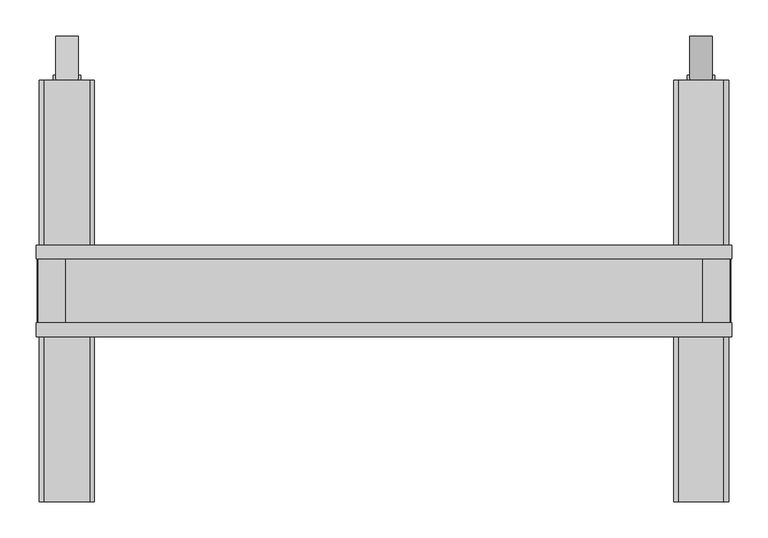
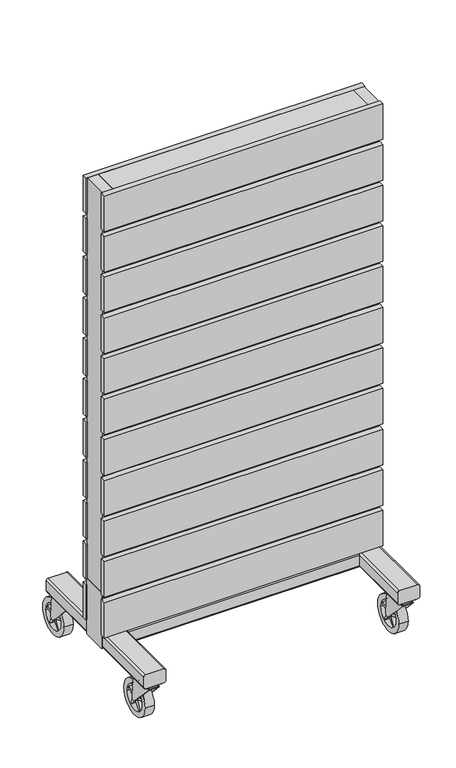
"""IFC4 building model written with IfcOpenShell, lengths in millimetres: furniture geometry, GMi_Companies-Pallet : PLTM-7238-KP-MC."""

import ifcopenshell
import ifcopenshell.guid

model = None  # the IFC model being written
_history = None  # IfcOwnerHistory: only IFC2X3 demands one
_inside = {}  # id of a spatial element -> (the spatial element, [elements in it])
_under = {}  # id of a project, library or spatial element -> (it, [spatial elements below it])
_declared = {}  # id of a project -> (the project, [libraries it declares])
_typed = {}  # id of a type object -> (the type object, [elements of that type])
_made_of = {}  # id of a material, layer set ... -> (it, [elements and type objects made of it])


def new_model(schema):
    """Start an empty IFC model of exactly this schema.

    Asked for "IFC4X3", IfcOpenShell would pick the latest addendum, in which some entities
    have other attributes; the version numbers below select the first issue.
    IFC2X3 requires an IfcOwnerHistory on every rooted entity: one is made here for all.
    """
    global model, _history
    if schema == "IFC4X3":
        model = ifcopenshell.file(schema_version=(4, 3, 0, 0))
    else:
        model = ifcopenshell.file(schema=schema)
    _inside.clear()
    _under.clear()
    _declared.clear()
    _typed.clear()
    _made_of.clear()
    _history = None
    if model.schema == "IFC2X3":
        org = make("IfcOrganization", Name="unknown")
        user = make(
            "IfcPersonAndOrganization",
            ThePerson=make("IfcPerson", FamilyName="unknown"),
            TheOrganization=org,
        )
        app = make(
            "IfcApplication",
            ApplicationDeveloper=org,
            Version="unknown",
            ApplicationFullName="unknown",
            ApplicationIdentifier="unknown",
        )
        _history = make(
            "IfcOwnerHistory",
            OwningUser=user,
            OwningApplication=app,
            ChangeAction="ADDED",
            CreationDate=0,
        )
    return model


def make(cls, **values):
    """One entity of the class cls with the attributes given. An attribute that is None is left unset."""
    return model.create_entity(
        cls, **{name: value for name, value in values.items() if value is not None}
    )


def rooted(cls, **values):
    """An entity with a GlobalId (a new one), such as an element, a storey or a relation."""
    return make(cls, GlobalId=ifcopenshell.guid.new(), OwnerHistory=_history, **values)


def si_unit(unit_type, name, prefix=None):
    """IfcSIUnit, for example si_unit("LENGTHUNIT", "METRE", prefix="MILLI")."""
    return make("IfcSIUnit", UnitType=unit_type, Prefix=prefix, Name=name)


def assignment(units):
    """IfcUnitAssignment: the units of a project."""
    return None if units is None else make("IfcUnitAssignment", Units=units)


def point(xyz):
    """IfcCartesianPoint."""
    return None if xyz is None else make("IfcCartesianPoint", Coordinates=xyz)


def direction(xyz):
    """IfcDirection."""
    return None if xyz is None else make("IfcDirection", DirectionRatios=xyz)


def frame(location, z_axis=None, x_axis=None):
    """IfcAxis2Placement3D, a coordinate frame: its origin and axes. An axis left out is left unset."""
    return make(
        "IfcAxis2Placement3D",
        Location=point(location),
        Axis=direction(z_axis),
        RefDirection=direction(x_axis),
    )


def frame_2d(location, x_axis=None):
    """IfcAxis2Placement2D, a coordinate frame in the plane: its origin and x axis."""
    return make(
        "IfcAxis2Placement2D", Location=point(location), RefDirection=direction(x_axis)
    )


def origin():
    """The frame at (0, 0, 0) with its axes left unset."""
    return frame((0.0, 0.0, 0.0))


def place(relative_to, where):
    """IfcLocalPlacement: puts the frame where relative to a parent placement (None: the world)."""
    return make(
        "IfcLocalPlacement", PlacementRelTo=relative_to, RelativePlacement=where
    )


def context(
    kind, dimensions, precision=None, world=None, true_north=None, identifier=None
):
    """IfcGeometricRepresentationContext, for example the 3D "Model" context."""
    return make(
        "IfcGeometricRepresentationContext",
        ContextIdentifier=identifier,
        ContextType=kind,
        CoordinateSpaceDimension=dimensions,
        Precision=precision,
        WorldCoordinateSystem=world,
        TrueNorth=true_north,
    )


def project(units=None, contexts=None):
    """IfcProject with its units and contexts."""
    return rooted(
        "IfcProject",
        Name="project",
        RepresentationContexts=contexts,
        UnitsInContext=assignment(units),
    )


def spatial(cls, under=None, at=None, **own):
    """A site, building, storey or space (cls), placed at a placement, below another one or the project."""
    s = rooted(cls, ObjectPlacement=at, **own)
    if under is not None:
        _under.setdefault(under.id(), (under, []))[1].append(s)
    return s


def polyline(points):
    """IfcPolyline through the points."""
    return make("IfcPolyline", Points=[point(p) for p in points])


def circle_curve(where, radius):
    """IfcCircle in the frame where."""
    return make("IfcCircle", Position=where, Radius=radius)


def trimmed(basis, trim1, trim2, sense, master):
    """IfcTrimmedCurve: the piece of a basis curve between two trims."""
    return make(
        "IfcTrimmedCurve",
        BasisCurve=basis,
        Trim1=trim1,
        Trim2=trim2,
        SenseAgreement=sense,
        MasterRepresentation=master,
    )


def segment(curve, same_sense, transition):
    """IfcCompositeCurveSegment."""
    return make(
        "IfcCompositeCurveSegment",
        Transition=transition,
        SameSense=same_sense,
        ParentCurve=curve,
    )


def composite_curve(segments, self_intersect=None):
    """IfcCompositeCurve: segments joined end to end."""
    return make("IfcCompositeCurve", Segments=segments, SelfIntersect=self_intersect)


def outline(outer, holes=None, kind="AREA"):
    """IfcArbitraryClosedProfileDef: a profile drawn as a closed curve; with holes, ...WithVoids."""
    if holes is None:
        return make("IfcArbitraryClosedProfileDef", ProfileType=kind, OuterCurve=outer)
    return make(
        "IfcArbitraryProfileDefWithVoids",
        ProfileType=kind,
        OuterCurve=outer,
        InnerCurves=holes,
    )


def extrude(swept, where, along, depth):
    """IfcExtrudedAreaSolid: the profile swept, set in the frame where, extruded along a direction by depth."""
    return make(
        "IfcExtrudedAreaSolid",
        SweptArea=swept,
        Position=where,
        ExtrudedDirection=direction(along),
        Depth=depth,
    )


def shape(context_of_items, identifier, shape_type, items):
    """IfcShapeRepresentation: the items that make up one representation, for example the "Body"."""
    return make(
        "IfcShapeRepresentation",
        ContextOfItems=context_of_items,
        RepresentationIdentifier=identifier,
        RepresentationType=shape_type,
        Items=items,
    )


def source(mapping_origin, context_of_items, identifier, shape_type, items):
    """IfcRepresentationMap: a shape defined once, which mapped items show again and again."""
    return make(
        "IfcRepresentationMap",
        MappingOrigin=mapping_origin,
        MappedRepresentation=shape(context_of_items, identifier, shape_type, items),
    )


def transform(
    local_origin,
    x_axis=None,
    y_axis=None,
    z_axis=None,
    scale=None,
    scale2=None,
    scale3=None,
    uniform=True,
):
    """IfcCartesianTransformationOperator3D, or its non-uniform kind. x_axis, y_axis, z_axis: its Axis1, 2, 3."""
    if uniform:
        return make(
            "IfcCartesianTransformationOperator3D",
            Axis1=direction(x_axis),
            Axis2=direction(y_axis),
            LocalOrigin=point(local_origin),
            Scale=scale,
            Axis3=direction(z_axis),
        )
    return make(
        "IfcCartesianTransformationOperator3DnonUniform",
        Axis1=direction(x_axis),
        Axis2=direction(y_axis),
        LocalOrigin=point(local_origin),
        Scale=scale,
        Axis3=direction(z_axis),
        Scale2=scale2,
        Scale3=scale3,
    )


def mapped(mapping_source, mapping_target):
    """IfcMappedItem: shows the shape of a source again, moved by a transform."""
    return make(
        "IfcMappedItem", MappingSource=mapping_source, MappingTarget=mapping_target
    )


def made_of(thing, what):
    """Note that an element or type object is made of a material, layer set ...; save() writes the relation."""
    if what is not None:
        _made_of.setdefault(what.id(), (what, []))[1].append(thing)
    return thing


def element(
    cls,
    number,
    at=None,
    inside=None,
    cuts=None,
    type_object=None,
    material=None,
    context=None,
    identifier="Body",
    shape_type=None,
    held_by="IfcProductDefinitionShape",
    body=None,
    shapes=None,
    **own,
):
    """One element of the class cls, such as IfcWall. Its Tag is "e" and its number.

    at: its placement. inside: the storey or other place that contains it. cuts: it is an
    opening in that element (IfcRelVoidsElement). A single representation is given by context,
    identifier, shape_type and body (its items); several are given by shapes. held_by: the class
    of the entity that holds the representations. save() writes the other relations.
    """
    e = rooted(cls, Tag="e%d" % number, ObjectPlacement=at, **own)
    if body is not None:
        shapes = [shape(context, identifier, shape_type, body)]
    if shapes is not None:
        e.Representation = make(held_by, Representations=shapes)
    if inside is not None:
        _inside.setdefault(inside.id(), (inside, []))[1].append(e)
    if cuts is not None:
        rooted(
            "IfcRelVoidsElement", RelatingBuildingElement=cuts, RelatedOpeningElement=e
        )
    if type_object is not None:
        _typed.setdefault(type_object.id(), (type_object, []))[1].append(e)
    return made_of(e, material)


def aggregate(whole, parts):
    """IfcRelAggregates: a whole, such as a stair, and the parts it consists of."""
    return rooted("IfcRelAggregates", RelatingObject=whole, RelatedObjects=parts)


def save(model, path):
    """Write the relations noted so far, then the file.

    IfcRelAggregates (storeys below a building ...), IfcRelContainedInSpatialStructure (elements
    in a storey), IfcRelDefinesByType, IfcRelAssociatesMaterial and IfcRelDeclares: one each for
    every whole, place, type object, material and project.
    """
    for whole, parts in _under.values():
        aggregate(whole, parts)
    for where, things in _inside.values():
        rooted(
            "IfcRelContainedInSpatialStructure",
            RelatedElements=things,
            RelatingStructure=where,
        )
    for kind, things in _typed.values():
        rooted("IfcRelDefinesByType", RelatedObjects=things, RelatingType=kind)
    for what, things in _made_of.values():
        rooted("IfcRelAssociatesMaterial", RelatedObjects=things, RelatingMaterial=what)
    for by, libraries in _declared.values():
        rooted("IfcRelDeclares", RelatingContext=by, RelatedDefinitions=libraries)
    model.write(path)


def furniture_4ffba0c0(model_context):
    return source(origin(), model_context, "Body", "SweptSolid", [
        extrude(outline(polyline([(965.2, -107.9499985), (965.2, -126.9999985), (0.0, -126.9999985), (0.0, -107.9499985), (965.2, -107.9499985)])), frame((0.0, 0.0, 358.4575), z_axis=(0.0, 0.0, 1.0), x_axis=(1.0, 0.0, 0.0)), (0.0, 0.0, 1.0), 130.175),
        extrude(outline(polyline([(965.2, -107.9499985), (965.2, -126.9999985), (0.0, -126.9999985), (0.0, -107.9499985), (965.2, -107.9499985)])), frame((0.0, 0.0, 507.365), z_axis=(0.0, 0.0, 1.0), x_axis=(1.0, 0.0, 0.0)), (0.0, 0.0, 1.0), 130.175),
        extrude(outline(polyline([(965.2, -107.9499985), (965.2, -126.9999985), (0.0, -126.9999985), (0.0, -107.9499985), (965.2, -107.9499985)])), frame((0.0, 0.0, 656.2725), z_axis=(0.0, 0.0, 1.0), x_axis=(1.0, 0.0, 0.0)), (0.0, 0.0, 1.0), 130.175),
        extrude(outline(polyline([(965.2, -107.9499985), (965.2, -126.9999985), (0.0, -126.9999985), (0.0, -107.9499985), (965.2, -107.9499985)])), frame((0.0, 0.0, 805.18), z_axis=(0.0, 0.0, 1.0), x_axis=(1.0, 0.0, 0.0)), (0.0, 0.0, 1.0), 130.175),
        extrude(outline(polyline([(965.2, -107.9499985), (965.2, -126.9999985), (0.0, -126.9999985), (0.0, -107.9499985), (965.2, -107.9499985)])), frame((0.0, 0.0, 954.0875), z_axis=(0.0, 0.0, 1.0), x_axis=(1.0, 0.0, 0.0)), (0.0, 0.0, 1.0), 130.175),
        extrude(outline(polyline([(965.2, -107.9499985), (965.2, -126.9999985), (0.0, -126.9999985), (0.0, -107.9499985), (965.2, -107.9499985)])), frame((0.0, 0.0, 1102.995), z_axis=(0.0, 0.0, 1.0), x_axis=(1.0, 0.0, 0.0)), (0.0, 0.0, 1.0), 130.175),
        extrude(outline(polyline([(965.2, -107.9499985), (965.2, -126.9999985), (0.0, -126.9999985), (0.0, -107.9499985), (965.2, -107.9499985)])), frame((0.0, 0.0, 1251.9025), z_axis=(0.0, 0.0, 1.0), x_axis=(1.0, 0.0, 0.0)), (0.0, 0.0, 1.0), 130.175),
        extrude(outline(polyline([(965.2, -107.9499985), (965.2, -126.9999985), (0.0, -126.9999985), (0.0, -107.9499985), (965.2, -107.9499985)])), frame((0.0, 0.0, 1400.81), z_axis=(0.0, 0.0, 1.0), x_axis=(1.0, 0.0, 0.0)), (0.0, 0.0, 1.0), 130.175),
        extrude(outline(polyline([(965.2, -107.9499985), (965.2, -126.9999985), (0.0, -126.9999985), (0.0, -107.9499985), (965.2, -107.9499985)])), frame((0.0, 0.0, 1549.7175), z_axis=(0.0, 0.0, 1.0), x_axis=(1.0, 0.0, 0.0)), (0.0, 0.0, 1.0), 130.175),
        extrude(outline(polyline([(965.2, 0.0), (965.2, -19.05), (0.0, -19.05), (0.0, 0.0), (965.2, 0.0)])), frame((0.0, 0.0, 358.4575), z_axis=(0.0, 0.0, 1.0), x_axis=(1.0, 0.0, 0.0)), (0.0, 0.0, 1.0), 130.175),
        extrude(outline(polyline([(965.2, 0.0), (965.2, -19.05), (0.0, -19.05), (0.0, 0.0), (965.2, 0.0)])), frame((0.0, 0.0, 507.365), z_axis=(0.0, 0.0, 1.0), x_axis=(1.0, 0.0, 0.0)), (0.0, 0.0, 1.0), 130.175),
        extrude(outline(polyline([(965.2, 0.0), (965.2, -19.05), (0.0, -19.05), (0.0, 0.0), (965.2, 0.0)])), frame((0.0, 0.0, 656.2725), z_axis=(0.0, 0.0, 1.0), x_axis=(1.0, 0.0, 0.0)), (0.0, 0.0, 1.0), 130.175),
        extrude(outline(polyline([(965.2, 0.0), (965.2, -19.05), (0.0, -19.05), (0.0, 0.0), (965.2, 0.0)])), frame((0.0, 0.0, 805.18), z_axis=(0.0, 0.0, 1.0), x_axis=(1.0, 0.0, 0.0)), (0.0, 0.0, 1.0), 130.175),
        extrude(outline(polyline([(965.2, 0.0), (965.2, -19.05), (0.0, -19.05), (0.0, 0.0), (965.2, 0.0)])), frame((0.0, 0.0, 954.0875), z_axis=(0.0, 0.0, 1.0), x_axis=(1.0, 0.0, 0.0)), (0.0, 0.0, 1.0), 130.175),
        extrude(outline(polyline([(965.2, 0.0), (965.2, -19.05), (0.0, -19.05), (0.0, 0.0), (965.2, 0.0)])), frame((0.0, 0.0, 1102.995), z_axis=(0.0, 0.0, 1.0), x_axis=(1.0, 0.0, 0.0)), (0.0, 0.0, 1.0), 130.175),
        extrude(outline(polyline([(965.2, 0.0), (965.2, -19.05), (0.0, -19.05), (0.0, 0.0), (965.2, 0.0)])), frame((0.0, 0.0, 1251.9025), z_axis=(0.0, 0.0, 1.0), x_axis=(1.0, 0.0, 0.0)), (0.0, 0.0, 1.0), 130.175),
        extrude(outline(polyline([(965.2, 0.0), (965.2, -19.05), (0.0, -19.05), (0.0, 0.0), (965.2, 0.0)])), frame((0.0, 0.0, 1400.81), z_axis=(0.0, 0.0, 1.0), x_axis=(1.0, 0.0, 0.0)), (0.0, 0.0, 1.0), 130.175),
        extrude(outline(polyline([(965.2, 0.0), (965.2, -19.05), (0.0, -19.05), (0.0, 0.0), (965.2, 0.0)])), frame((0.0, 0.0, 1549.7175), z_axis=(0.0, 0.0, 1.0), x_axis=(1.0, 0.0, 0.0)), (0.0, 0.0, 1.0), 130.175),
        extrude(outline(polyline([(965.2, -107.9499985), (965.2, -126.9999985), (0.0, -126.9999985), (0.0, -107.9499985), (965.2, -107.9499985)])), frame((0.0, 0.0, 209.55), z_axis=(0.0, 0.0, 1.0), x_axis=(1.0, 0.0, 0.0)), (0.0, 0.0, 1.0), 130.175),
        extrude(outline(polyline([(965.2, 0.0), (965.2, -19.05), (0.0, -19.05), (0.0, 0.0), (965.2, 0.0)])), frame((0.0, 0.0, 209.55), z_axis=(0.0, 0.0, 1.0), x_axis=(1.0, 0.0, 0.0)), (0.0, 0.0, 1.0), 130.175),
        extrude(outline(polyline([(965.2, -107.9499985), (965.2, -126.9999985), (0.0, -126.9999985), (0.0, -107.9499985), (965.2, -107.9499985)])), frame((0.0, 0.0, 1698.625), z_axis=(0.0, 0.0, 1.0), x_axis=(1.0, 0.0, 0.0)), (0.0, 0.0, 1.0), 130.175),
        extrude(outline(polyline([(965.2, 0.0), (965.2, -19.05), (0.0, -19.05), (0.0, 0.0), (965.2, 0.0)])), frame((0.0, 0.0, 1698.625), z_axis=(0.0, 0.0, 1.0), x_axis=(1.0, 0.0, 0.0)), (0.0, 0.0, 1.0), 130.175),
        extrude(outline(polyline([(232.5856246, 72.0796846), (267.7931048, 79.5762798), (269.5582953, 73.9416668), (236.438143, 60.2228469), (254.4475363, 29.0551189), (249.6341746, 25.635132), (226.3521161, 52.8949176), (203.0700575, 25.635132), (198.2566958, 29.0551189), (216.2660891, 60.2228469), (183.1459368, 73.9416668), (184.9111274, 79.5762798), (220.1186076, 72.0796846), (222.931299, 107.8181706), (229.7729331, 107.8181706), (232.5856246, 72.0796846)]), holes=[composite_curve([segment(trimmed(circle_curve(frame_2d((226.3521161, 63.4999985)), 9.525), [point((216.8271161, 63.4999985))], [point((235.8771161, 63.4999985))], True, "CARTESIAN"), True, "CONTINUOUS"), segment(trimmed(circle_curve(frame_2d((226.3521161, 63.4999985)), 9.525), [point((235.8771161, 63.4999985))], [point((216.8271161, 63.4999985))], True, "CARTESIAN"), True, "CONTINUOUS")], self_intersect=False)]), frame((909.79313, 0.0, 0.0), z_axis=(1.0, 0.0, 0.0), x_axis=(0.0, 1.0, 0.0)), (0.0, 0.0, 1.0), 25.2409062),
        extrude(outline(polyline([(-255.0436363, 72.0796846), (-219.8361561, 79.5762798), (-218.0709656, 73.9416668), (-251.1911179, 60.2228469), (-233.1817246, 29.0551189), (-237.9950863, 25.635132), (-261.2771448, 52.8949176), (-284.5592034, 25.635132), (-289.3725651, 29.0551189), (-271.3631718, 60.2228469), (-304.4833241, 73.9416668), (-302.7181335, 79.5762798), (-267.5106533, 72.0796846), (-264.6979619, 107.8181706), (-257.8563278, 107.8181706), (-255.0436363, 72.0796846)]), holes=[composite_curve([segment(trimmed(circle_curve(frame_2d((-261.2771448, 63.4999985)), 9.525), [point((-270.8021448, 63.4999985))], [point((-251.7521448, 63.4999985))], True, "CARTESIAN"), True, "CONTINUOUS"), segment(trimmed(circle_curve(frame_2d((-261.2771448, 63.4999985)), 9.525), [point((-251.7521448, 63.4999985))], [point((-270.8021448, 63.4999985))], True, "CARTESIAN"), True, "CONTINUOUS")], self_intersect=False)]), frame((909.79313, 0.0, 0.0), z_axis=(1.0, 0.0, 0.0), x_axis=(0.0, 1.0, 0.0)), (0.0, 0.0, 1.0), 25.2409062),
        extrude(outline(composite_curve([segment(trimmed(circle_curve(frame_2d((226.3521161, 63.4999985)), 63.4999985), [point((162.8521176, 63.4999985))], [point((289.8521146, 63.4999985))], False, "CARTESIAN"), True, "CONTINUOUS"), segment(trimmed(circle_curve(frame_2d((226.3521161, 63.4999985)), 63.4999985), [point((289.8521146, 63.4999985))], [point((162.8521176, 63.4999985))], False, "CARTESIAN"), True, "CONTINUOUS")], self_intersect=False), holes=[composite_curve([segment(trimmed(circle_curve(frame_2d((226.3521161, 63.4999985)), 44.4499985), [point((181.9021176, 63.4999985))], [point((270.8021146, 63.4999985))], True, "CARTESIAN"), True, "CONTINUOUS"), segment(trimmed(circle_curve(frame_2d((226.3521161, 63.4999985)), 44.4499985), [point((270.8021146, 63.4999985))], [point((181.9021176, 63.4999985))], True, "CARTESIAN"), True, "CONTINUOUS")], self_intersect=False)]), frame((906.4624743, 0.0, 0.0), z_axis=(1.0, 0.0, 0.0), x_axis=(0.0, 1.0, 0.0)), (0.0, 0.0, 1.0), 31.7500015),
        extrude(outline(composite_curve([segment(trimmed(circle_curve(frame_2d((-261.2771448, 63.4999985)), 63.4999985), [point((-324.7771433, 63.4999985))], [point((-197.7771464, 63.4999985))], False, "CARTESIAN"), True, "CONTINUOUS"), segment(trimmed(circle_curve(frame_2d((-261.2771448, 63.4999985)), 63.4999985), [point((-197.7771464, 63.4999985))], [point((-324.7771433, 63.4999985))], False, "CARTESIAN"), True, "CONTINUOUS")], self_intersect=False), holes=[composite_curve([segment(trimmed(circle_curve(frame_2d((-261.2771448, 63.4999985)), 44.4499985), [point((-305.7271433, 63.4999985))], [point((-216.8271464, 63.4999985))], True, "CARTESIAN"), True, "CONTINUOUS"), segment(trimmed(circle_curve(frame_2d((-261.2771448, 63.4999985)), 44.4499985), [point((-216.8271464, 63.4999985))], [point((-305.7271433, 63.4999985))], True, "CARTESIAN"), True, "CONTINUOUS")], self_intersect=False)]), frame((906.4624743, 0.0, 0.0), z_axis=(1.0, 0.0, 0.0), x_axis=(0.0, 1.0, 0.0)), (0.0, 0.0, 1.0), 31.7500015),
        extrude(outline(composite_curve([segment(trimmed(circle_curve(frame_2d((139.4618177, 144.4825842)), 1.5674128), [point((138.3154845, 143.4136113))], [point((139.4618177, 146.049997))], False, "CARTESIAN"), True, "CONTINUOUS"), segment(polyline([(139.4618177, 146.049997), (227.2025864, 146.049997)]), True, "CONTINUOUS"), segment(trimmed(circle_curve(frame_2d((227.2025864, 144.4757309)), 1.574266), [point((227.2025864, 146.049997))], [point((228.7708619, 144.6129373))], False, "CARTESIAN"), True, "CONTINUOUS"), segment(polyline([(228.7708619, 144.6129373), (228.8757893, 143.4136113), (138.3154845, 143.4136113)]), True, "CONTINUOUS")], self_intersect=False)), frame((906.462522, 0.0, 0.0), z_axis=(1.0, 0.0, 0.0), x_axis=(0.0, 1.0, 0.0)), (0.0, 0.0, 1.0), 31.7499538),
        extrude(outline(composite_curve([segment(trimmed(circle_curve(frame_2d((-348.1673933, 144.4825842)), 1.5674128), [point((-349.3137264, 143.4136113))], [point((-348.1673933, 146.049997))], False, "CARTESIAN"), True, "CONTINUOUS"), segment(polyline([(-348.1673933, 146.049997), (-260.4266246, 146.049997)]), True, "CONTINUOUS"), segment(trimmed(circle_curve(frame_2d((-260.4266246, 144.4757309)), 1.574266), [point((-260.4266246, 146.049997))], [point((-258.8583491, 144.6129373))], False, "CARTESIAN"), True, "CONTINUOUS"), segment(polyline([(-258.8583491, 144.6129373), (-258.7534216, 143.4136113), (-349.3137264, 143.4136113)]), True, "CONTINUOUS")], self_intersect=False)), frame((906.462522, 0.0, 0.0), z_axis=(1.0, 0.0, 0.0), x_axis=(0.0, 1.0, 0.0)), (0.0, 0.0, 1.0), 31.7499538),
        extrude(outline(composite_curve([segment(polyline([(139.4618177, 146.049997), (227.1904597, 146.049997)]), True, "CONTINUOUS"), segment(trimmed(circle_curve(frame_2d((227.1904597, 144.462497)), 1.5875), [point((227.1904597, 146.049997))], [point((228.7719188, 144.6008567))], False, "CARTESIAN"), True, "CONTINUOUS"), segment(polyline([(228.7719188, 144.6008567), (235.8364993, 63.8523315)]), True, "CONTINUOUS"), segment(trimmed(circle_curve(frame_2d((226.3305342, 63.0206673)), 9.5422764), [point((235.8364993, 63.8523315))], [point((219.351755, 56.5128504))], False, "CARTESIAN"), True, "CONTINUOUS"), segment(polyline([(219.351755, 56.5128504), (138.3154845, 143.4136113)]), True, "CONTINUOUS"), segment(trimmed(circle_curve(frame_2d((139.4618177, 144.4825842)), 1.5674128), [point((138.3154845, 143.4136113))], [point((139.4618177, 146.049997))], False, "CARTESIAN"), True, "CONTINUOUS")], self_intersect=False)), frame((903.2875228, 0.0, 0.0), z_axis=(1.0, 0.0, 0.0), x_axis=(0.0, 1.0, 0.0)), (0.0, 0.0, 1.0), 3.1749992),
        extrude(outline(composite_curve([segment(polyline([(-348.1673933, 146.049997), (-260.4387512, 146.049997)]), True, "CONTINUOUS"), segment(trimmed(circle_curve(frame_2d((-260.4387512, 144.462497)), 1.5875), [point((-260.4387512, 146.049997))], [point((-258.8572922, 144.6008567))], False, "CARTESIAN"), True, "CONTINUOUS"), segment(polyline([(-258.8572922, 144.6008567), (-251.7927116, 63.8523315)]), True, "CONTINUOUS"), segment(trimmed(circle_curve(frame_2d((-261.2986768, 63.0206673)), 9.5422764), [point((-251.7927116, 63.8523315))], [point((-268.2774559, 56.5128504))], False, "CARTESIAN"), True, "CONTINUOUS"), segment(polyline([(-268.2774559, 56.5128504), (-349.3137264, 143.4136113)]), True, "CONTINUOUS"), segment(trimmed(circle_curve(frame_2d((-348.1673933, 144.4825842)), 1.5674128), [point((-349.3137264, 143.4136113))], [point((-348.1673933, 146.049997))], False, "CARTESIAN"), True, "CONTINUOUS")], self_intersect=False)), frame((903.2875228, 0.0, 0.0), z_axis=(1.0, 0.0, 0.0), x_axis=(0.0, 1.0, 0.0)), (0.0, 0.0, 1.0), 3.1749992),
        extrude(outline(composite_curve([segment(polyline([(139.4618177, 146.049997), (227.1904597, 146.049997)]), True, "CONTINUOUS"), segment(trimmed(circle_curve(frame_2d((227.1904597, 144.462497)), 1.5875), [point((227.1904597, 146.049997))], [point((228.7719188, 144.6008567))], False, "CARTESIAN"), True, "CONTINUOUS"), segment(polyline([(228.7719188, 144.6008567), (235.8364993, 63.8523315)]), True, "CONTINUOUS"), segment(trimmed(circle_curve(frame_2d((226.3305342, 63.0206673)), 9.5422764), [point((235.8364993, 63.8523315))], [point((219.351755, 56.5128504))], False, "CARTESIAN"), True, "CONTINUOUS"), segment(polyline([(219.351755, 56.5128504), (138.3154845, 143.4136113)]), True, "CONTINUOUS"), segment(trimmed(circle_curve(frame_2d((139.4618177, 144.4825842)), 1.5674128), [point((138.3154845, 143.4136113))], [point((139.4618177, 146.049997))], False, "CARTESIAN"), True, "CONTINUOUS")], self_intersect=False)), frame((938.2124758, 0.0, 0.0), z_axis=(1.0, 0.0, 0.0), x_axis=(0.0, 1.0, 0.0)), (0.0, 0.0, 1.0), 3.1749992),
        extrude(outline(composite_curve([segment(polyline([(-348.1673933, 146.049997), (-260.4387512, 146.049997)]), True, "CONTINUOUS"), segment(trimmed(circle_curve(frame_2d((-260.4387512, 144.462497)), 1.5875), [point((-260.4387512, 146.049997))], [point((-258.8572922, 144.6008567))], False, "CARTESIAN"), True, "CONTINUOUS"), segment(polyline([(-258.8572922, 144.6008567), (-251.7927116, 63.8523315)]), True, "CONTINUOUS"), segment(trimmed(circle_curve(frame_2d((-261.2986768, 63.0206673)), 9.5422764), [point((-251.7927116, 63.8523315))], [point((-268.2774559, 56.5128504))], False, "CARTESIAN"), True, "CONTINUOUS"), segment(polyline([(-268.2774559, 56.5128504), (-349.3137264, 143.4136113)]), True, "CONTINUOUS"), segment(trimmed(circle_curve(frame_2d((-348.1673933, 144.4825842)), 1.5674128), [point((-349.3137264, 143.4136113))], [point((-348.1673933, 146.049997))], False, "CARTESIAN"), True, "CONTINUOUS")], self_intersect=False)), frame((938.2124758, 0.0, 0.0), z_axis=(1.0, 0.0, 0.0), x_axis=(0.0, 1.0, 0.0)), (0.0, 0.0, 1.0), 3.1749992),
        extrude(outline(polyline([(232.5856246, 72.0796846), (267.7931048, 79.5762798), (269.5582953, 73.9416668), (236.438143, 60.2228469), (254.4475363, 29.0551189), (249.6341746, 25.635132), (226.3521161, 52.8949176), (203.0700575, 25.635132), (198.2566958, 29.0551189), (216.2660891, 60.2228469), (183.1459368, 73.9416668), (184.9111274, 79.5762798), (220.1186076, 72.0796846), (222.931299, 107.8181706), (229.7729331, 107.8181706), (232.5856246, 72.0796846)]), holes=[composite_curve([segment(trimmed(circle_curve(frame_2d((226.3521161, 63.4999985)), 9.525), [point((216.8271161, 63.4999985))], [point((235.8771161, 63.4999985))], True, "CARTESIAN"), True, "CONTINUOUS"), segment(trimmed(circle_curve(frame_2d((226.3521161, 63.4999985)), 9.525), [point((235.8771161, 63.4999985))], [point((216.8271161, 63.4999985))], True, "CARTESIAN"), True, "CONTINUOUS")], self_intersect=False)]), frame((30.1659639, 0.0, 0.0), z_axis=(1.0, 0.0, 0.0), x_axis=(0.0, 1.0, 0.0)), (0.0, 0.0, 1.0), 25.2409062),
        extrude(outline(polyline([(-255.0436363, 72.0796846), (-219.8361561, 79.5762798), (-218.0709656, 73.9416668), (-251.1911179, 60.2228469), (-233.1817246, 29.0551189), (-237.9950863, 25.635132), (-261.2771448, 52.8949176), (-284.5592034, 25.635132), (-289.3725651, 29.0551189), (-271.3631718, 60.2228469), (-304.4833241, 73.9416668), (-302.7181335, 79.5762798), (-267.5106533, 72.0796846), (-264.6979619, 107.8181706), (-257.8563278, 107.8181706), (-255.0436363, 72.0796846)]), holes=[composite_curve([segment(trimmed(circle_curve(frame_2d((-261.2771448, 63.4999985)), 9.525), [point((-270.8021448, 63.4999985))], [point((-251.7521448, 63.4999985))], True, "CARTESIAN"), True, "CONTINUOUS"), segment(trimmed(circle_curve(frame_2d((-261.2771448, 63.4999985)), 9.525), [point((-251.7521448, 63.4999985))], [point((-270.8021448, 63.4999985))], True, "CARTESIAN"), True, "CONTINUOUS")], self_intersect=False)]), frame((30.1659639, 0.0, 0.0), z_axis=(1.0, 0.0, 0.0), x_axis=(0.0, 1.0, 0.0)), (0.0, 0.0, 1.0), 25.2409062),
        extrude(outline(composite_curve([segment(trimmed(circle_curve(frame_2d((226.3521161, 63.4999985)), 63.4999985), [point((162.8521176, 63.4999985))], [point((289.8521146, 63.4999985))], False, "CARTESIAN"), True, "CONTINUOUS"), segment(trimmed(circle_curve(frame_2d((226.3521161, 63.4999985)), 63.4999985), [point((289.8521146, 63.4999985))], [point((162.8521176, 63.4999985))], False, "CARTESIAN"), True, "CONTINUOUS")], self_intersect=False), holes=[composite_curve([segment(trimmed(circle_curve(frame_2d((226.3521161, 63.4999985)), 44.4499985), [point((181.9021176, 63.4999985))], [point((270.8021146, 63.4999985))], True, "CARTESIAN"), True, "CONTINUOUS"), segment(trimmed(circle_curve(frame_2d((226.3521161, 63.4999985)), 44.4499985), [point((270.8021146, 63.4999985))], [point((181.9021176, 63.4999985))], True, "CARTESIAN"), True, "CONTINUOUS")], self_intersect=False)]), frame((26.9875242, 0.0, 0.0), z_axis=(1.0, 0.0, 0.0), x_axis=(0.0, 1.0, 0.0)), (0.0, 0.0, 1.0), 31.7500015),
        extrude(outline(composite_curve([segment(trimmed(circle_curve(frame_2d((-261.2771448, 63.4999985)), 63.4999985), [point((-324.7771433, 63.4999985))], [point((-197.7771464, 63.4999985))], False, "CARTESIAN"), True, "CONTINUOUS"), segment(trimmed(circle_curve(frame_2d((-261.2771448, 63.4999985)), 63.4999985), [point((-197.7771464, 63.4999985))], [point((-324.7771433, 63.4999985))], False, "CARTESIAN"), True, "CONTINUOUS")], self_intersect=False), holes=[composite_curve([segment(trimmed(circle_curve(frame_2d((-261.2771448, 63.4999985)), 44.4499985), [point((-305.7271433, 63.4999985))], [point((-216.8271464, 63.4999985))], True, "CARTESIAN"), True, "CONTINUOUS"), segment(trimmed(circle_curve(frame_2d((-261.2771448, 63.4999985)), 44.4499985), [point((-216.8271464, 63.4999985))], [point((-305.7271433, 63.4999985))], True, "CARTESIAN"), True, "CONTINUOUS")], self_intersect=False)]), frame((26.9875242, 0.0, 0.0), z_axis=(1.0, 0.0, 0.0), x_axis=(0.0, 1.0, 0.0)), (0.0, 0.0, 1.0), 31.7500015),
        extrude(outline(polyline([(960.4374745, -107.9499849), (960.4374745, -19.049997), (963.4855052, -19.049997), (963.4855052, -107.9499849), (960.4374745, -107.9499849)])), frame((0.0, 0.0, 158.7499939), z_axis=(0.0, 0.0, 1.0), x_axis=(1.0, 0.0, 0.0)), (0.0, 0.0, 1.0), 203.2000061),
        extrude(outline(polyline([(4.7625255, -19.049997), (4.7625255, -107.9499849), (1.7144948, -107.9499849), (1.7144948, -19.049997), (4.7625255, -19.049997)])), frame((0.0, 0.0, 158.7499939), z_axis=(0.0, 0.0, 1.0), x_axis=(1.0, 0.0, 0.0)), (0.0, 0.0, 1.0), 203.2000061),
        extrude(outline(composite_curve([segment(trimmed(circle_curve(frame_2d((139.4618177, 144.4825842)), 1.5674128), [point((138.3154845, 143.4136113))], [point((139.4618177, 146.049997))], False, "CARTESIAN"), True, "CONTINUOUS"), segment(polyline([(139.4618177, 146.049997), (227.2025864, 146.049997)]), True, "CONTINUOUS"), segment(trimmed(circle_curve(frame_2d((227.2025864, 144.4757309)), 1.574266), [point((227.2025864, 146.049997))], [point((228.7708619, 144.6129373))], False, "CARTESIAN"), True, "CONTINUOUS"), segment(polyline([(228.7708619, 144.6129373), (228.8757893, 143.4136113), (138.3154845, 143.4136113)]), True, "CONTINUOUS")], self_intersect=False)), frame((26.9875242, 0.0, 0.0), z_axis=(1.0, 0.0, 0.0), x_axis=(0.0, 1.0, 0.0)), (0.0, 0.0, 1.0), 31.7499538),
        extrude(outline(composite_curve([segment(trimmed(circle_curve(frame_2d((-348.1673933, 144.4825842)), 1.5674128), [point((-349.3137264, 143.4136113))], [point((-348.1673933, 146.049997))], False, "CARTESIAN"), True, "CONTINUOUS"), segment(polyline([(-348.1673933, 146.049997), (-260.4266246, 146.049997)]), True, "CONTINUOUS"), segment(trimmed(circle_curve(frame_2d((-260.4266246, 144.4757309)), 1.574266), [point((-260.4266246, 146.049997))], [point((-258.8583491, 144.6129373))], False, "CARTESIAN"), True, "CONTINUOUS"), segment(polyline([(-258.8583491, 144.6129373), (-258.7534216, 143.4136113), (-349.3137264, 143.4136113)]), True, "CONTINUOUS")], self_intersect=False)), frame((26.9875242, 0.0, 0.0), z_axis=(1.0, 0.0, 0.0), x_axis=(0.0, 1.0, 0.0)), (0.0, 0.0, 1.0), 31.7499538),
        extrude(outline(composite_curve([segment(polyline([(139.4618177, 146.049997), (227.1904597, 146.049997)]), True, "CONTINUOUS"), segment(trimmed(circle_curve(frame_2d((227.1904597, 144.462497)), 1.5875), [point((227.1904597, 146.049997))], [point((228.7719188, 144.6008567))], False, "CARTESIAN"), True, "CONTINUOUS"), segment(polyline([(228.7719188, 144.6008567), (235.8364993, 63.8523315)]), True, "CONTINUOUS"), segment(trimmed(circle_curve(frame_2d((226.3305342, 63.0206673)), 9.5422764), [point((235.8364993, 63.8523315))], [point((219.351755, 56.5128504))], False, "CARTESIAN"), True, "CONTINUOUS"), segment(polyline([(219.351755, 56.5128504), (138.3154845, 143.4136113)]), True, "CONTINUOUS"), segment(trimmed(circle_curve(frame_2d((139.4618177, 144.4825842)), 1.5674128), [point((138.3154845, 143.4136113))], [point((139.4618177, 146.049997))], False, "CARTESIAN"), True, "CONTINUOUS")], self_intersect=False)), frame((58.737478, 0.0, 0.0), z_axis=(1.0, 0.0, 0.0), x_axis=(0.0, 1.0, 0.0)), (0.0, 0.0, 1.0), 3.1749992),
        extrude(outline(composite_curve([segment(polyline([(-348.1673933, 146.049997), (-260.4387512, 146.049997)]), True, "CONTINUOUS"), segment(trimmed(circle_curve(frame_2d((-260.4387512, 144.462497)), 1.5875), [point((-260.4387512, 146.049997))], [point((-258.8572922, 144.6008567))], False, "CARTESIAN"), True, "CONTINUOUS"), segment(polyline([(-258.8572922, 144.6008567), (-251.7927116, 63.8523315)]), True, "CONTINUOUS"), segment(trimmed(circle_curve(frame_2d((-261.2986768, 63.0206673)), 9.5422764), [point((-251.7927116, 63.8523315))], [point((-268.2774559, 56.5128504))], False, "CARTESIAN"), True, "CONTINUOUS"), segment(polyline([(-268.2774559, 56.5128504), (-349.3137264, 143.4136113)]), True, "CONTINUOUS"), segment(trimmed(circle_curve(frame_2d((-348.1673933, 144.4825842)), 1.5674128), [point((-349.3137264, 143.4136113))], [point((-348.1673933, 146.049997))], False, "CARTESIAN"), True, "CONTINUOUS")], self_intersect=False)), frame((58.737478, 0.0, 0.0), z_axis=(1.0, 0.0, 0.0), x_axis=(0.0, 1.0, 0.0)), (0.0, 0.0, 1.0), 3.1749992),
        extrude(outline(composite_curve([segment(polyline([(139.4618177, 146.049997), (227.1904597, 146.049997)]), True, "CONTINUOUS"), segment(trimmed(circle_curve(frame_2d((227.1904597, 144.462497)), 1.5875), [point((227.1904597, 146.049997))], [point((228.7719188, 144.6008567))], False, "CARTESIAN"), True, "CONTINUOUS"), segment(polyline([(228.7719188, 144.6008567), (235.8364993, 63.8523315)]), True, "CONTINUOUS"), segment(trimmed(circle_curve(frame_2d((226.3305342, 63.0206673)), 9.5422764), [point((235.8364993, 63.8523315))], [point((219.351755, 56.5128504))], False, "CARTESIAN"), True, "CONTINUOUS"), segment(polyline([(219.351755, 56.5128504), (138.3154845, 143.4136113)]), True, "CONTINUOUS"), segment(trimmed(circle_curve(frame_2d((139.4618177, 144.4825842)), 1.5674128), [point((138.3154845, 143.4136113))], [point((139.4618177, 146.049997))], False, "CARTESIAN"), True, "CONTINUOUS")], self_intersect=False)), frame((23.8125249, 0.0, 0.0), z_axis=(1.0, 0.0, 0.0), x_axis=(0.0, 1.0, 0.0)), (0.0, 0.0, 1.0), 3.1749992),
        extrude(outline(composite_curve([segment(polyline([(-348.1673933, 146.049997), (-260.4387512, 146.049997)]), True, "CONTINUOUS"), segment(trimmed(circle_curve(frame_2d((-260.4387512, 144.462497)), 1.5875), [point((-260.4387512, 146.049997))], [point((-258.8572922, 144.6008567))], False, "CARTESIAN"), True, "CONTINUOUS"), segment(polyline([(-258.8572922, 144.6008567), (-251.7927116, 63.8523315)]), True, "CONTINUOUS"), segment(trimmed(circle_curve(frame_2d((-261.2986768, 63.0206673)), 9.5422764), [point((-251.7927116, 63.8523315))], [point((-268.2774559, 56.5128504))], False, "CARTESIAN"), True, "CONTINUOUS"), segment(polyline([(-268.2774559, 56.5128504), (-349.3137264, 143.4136113)]), True, "CONTINUOUS"), segment(trimmed(circle_curve(frame_2d((-348.1673933, 144.4825842)), 1.5674128), [point((-349.3137264, 143.4136113))], [point((-348.1673933, 146.049997))], False, "CARTESIAN"), True, "CONTINUOUS")], self_intersect=False)), frame((23.8125249, 0.0, 0.0), z_axis=(1.0, 0.0, 0.0), x_axis=(0.0, 1.0, 0.0)), (0.0, 0.0, 1.0), 3.1749992),
        extrude(outline(composite_curve([segment(trimmed(circle_curve(frame_2d((42.8625227, 180.3146146)), 19.05), [point((23.8125227, 180.3146146))], [point((61.9125227, 180.3146146))], False, "CARTESIAN"), True, "CONTINUOUS"), segment(trimmed(circle_curve(frame_2d((42.8625227, 180.3146146)), 19.05), [point((61.9125227, 180.3146146))], [point((23.8125227, 180.3146146))], False, "CARTESIAN"), True, "CONTINUOUS")], self_intersect=False)), frame((0.0, 0.0, 146.049997), z_axis=(0.0, 0.0, 1.0), x_axis=(1.0, 0.0, 0.0)), (0.0, 0.0, 1.0), 9.5250091),
        extrude(outline(composite_curve([segment(trimmed(circle_curve(frame_2d((922.413583, 180.3146146)), 19.05), [point((903.363583, 180.3146146))], [point((941.463583, 180.3146146))], False, "CARTESIAN"), True, "CONTINUOUS"), segment(trimmed(circle_curve(frame_2d((922.413583, 180.3146146)), 19.05), [point((941.463583, 180.3146146))], [point((903.363583, 180.3146146))], False, "CARTESIAN"), True, "CONTINUOUS")], self_intersect=False)), frame((0.0, 0.0, 146.049997), z_axis=(0.0, 0.0, 1.0), x_axis=(1.0, 0.0, 0.0)), (0.0, 0.0, 1.0), 9.5250091),
        extrude(outline(composite_curve([segment(trimmed(circle_curve(frame_2d((42.8625227, -307.3146327)), 19.05), [point((23.8125227, -307.3146327))], [point((61.9125227, -307.3146327))], False, "CARTESIAN"), True, "CONTINUOUS"), segment(trimmed(circle_curve(frame_2d((42.8625227, -307.3146327)), 19.05), [point((61.9125227, -307.3146327))], [point((23.8125227, -307.3146327))], False, "CARTESIAN"), True, "CONTINUOUS")], self_intersect=False)), frame((0.0, 0.0, 146.049997), z_axis=(0.0, 0.0, 1.0), x_axis=(1.0, 0.0, 0.0)), (0.0, 0.0, 1.0), 9.5250091),
        extrude(outline(composite_curve([segment(trimmed(circle_curve(frame_2d((922.413583, -307.3146327)), 19.05), [point((903.363583, -307.3146327))], [point((941.463583, -307.3146327))], False, "CARTESIAN"), True, "CONTINUOUS"), segment(trimmed(circle_curve(frame_2d((922.413583, -307.3146327)), 19.05), [point((941.463583, -307.3146327))], [point((903.363583, -307.3146327))], False, "CARTESIAN"), True, "CONTINUOUS")], self_intersect=False)), frame((0.0, 0.0, 146.049997), z_axis=(0.0, 0.0, 1.0), x_axis=(1.0, 0.0, 0.0)), (0.0, 0.0, 1.0), 9.5250091),
        extrude(outline(composite_curve([segment(trimmed(circle_curve(frame_2d((66.6749769, 220.0021161)), 6.35), [point((66.6749769, 226.3521161))], [point((73.0249769, 220.0021161))], False, "CARTESIAN"), True, "CONTINUOUS"), segment(polyline([(73.0249769, 220.0021161), (73.0249769, 140.6271085)]), True, "CONTINUOUS"), segment(trimmed(circle_curve(frame_2d((66.6749769, 140.6271085)), 6.35), [point((73.0249769, 140.6271085))], [point((66.6749769, 134.2771085))], False, "CARTESIAN"), True, "CONTINUOUS"), segment(polyline([(66.6749769, 134.2771085), (19.0500242, 134.2771085)]), True, "CONTINUOUS"), segment(trimmed(circle_curve(frame_2d((19.0500242, 140.6271085)), 6.35), [point((19.0500242, 134.2771085))], [point((12.7000242, 140.6271085))], False, "CARTESIAN"), True, "CONTINUOUS"), segment(polyline([(12.7000242, 140.6271085), (12.7000242, 220.0021161)]), True, "CONTINUOUS"), segment(trimmed(circle_curve(frame_2d((19.0500242, 220.0021161)), 6.35), [point((12.7000242, 220.0021161))], [point((19.0500242, 226.3521161))], False, "CARTESIAN"), True, "CONTINUOUS"), segment(polyline([(19.0500242, 226.3521161), (66.6749769, 226.3521161)]), True, "CONTINUOUS")], self_intersect=False)), frame((0.0, 0.0, 155.5750061), z_axis=(0.0, 0.0, 1.0), x_axis=(1.0, 0.0, 0.0)), (0.0, 0.0, 1.0), 3.1749879),
        extrude(outline(composite_curve([segment(trimmed(circle_curve(frame_2d((946.1499636, 220.0021161)), 6.35), [point((946.1499636, 226.3521161))], [point((952.4999636, 220.0021161))], False, "CARTESIAN"), True, "CONTINUOUS"), segment(polyline([(952.4999636, 220.0021161), (952.4999636, 140.6271085)]), True, "CONTINUOUS"), segment(trimmed(circle_curve(frame_2d((946.1499636, 140.6271085)), 6.35), [point((952.4999636, 140.6271085))], [point((946.1499636, 134.2771085))], False, "CARTESIAN"), True, "CONTINUOUS"), segment(polyline([(946.1499636, 134.2771085), (898.5250109, 134.2771085)]), True, "CONTINUOUS"), segment(trimmed(circle_curve(frame_2d((898.5250109, 140.6271085)), 6.35), [point((898.5250109, 134.2771085))], [point((892.1750109, 140.6271085))], False, "CARTESIAN"), True, "CONTINUOUS"), segment(polyline([(892.1750109, 140.6271085), (892.1750109, 220.0021161)]), True, "CONTINUOUS"), segment(trimmed(circle_curve(frame_2d((898.5250109, 220.0021161)), 6.35), [point((892.1750109, 220.0021161))], [point((898.5250109, 226.3521161))], False, "CARTESIAN"), True, "CONTINUOUS"), segment(polyline([(898.5250109, 226.3521161), (946.1499636, 226.3521161)]), True, "CONTINUOUS")], self_intersect=False)), frame((0.0, 0.0, 155.5750061), z_axis=(0.0, 0.0, 1.0), x_axis=(1.0, 0.0, 0.0)), (0.0, 0.0, 1.0), 3.1749879),
        extrude(outline(composite_curve([segment(trimmed(circle_curve(frame_2d((66.6749769, -267.6270767)), 6.35), [point((66.6749769, -261.2770767))], [point((73.0249769, -267.6270767))], False, "CARTESIAN"), True, "CONTINUOUS"), segment(polyline([(73.0249769, -267.6270767), (73.0249769, -347.0020843)]), True, "CONTINUOUS"), segment(trimmed(circle_curve(frame_2d((66.6749769, -347.0020843)), 6.35), [point((73.0249769, -347.0020843))], [point((66.6749769, -353.3520843))], False, "CARTESIAN"), True, "CONTINUOUS"), segment(polyline([(66.6749769, -353.3520843), (19.0500242, -353.3520843)]), True, "CONTINUOUS"), segment(trimmed(circle_curve(frame_2d((19.0500242, -347.0020843)), 6.35), [point((19.0500242, -353.3520843))], [point((12.7000242, -347.0020843))], False, "CARTESIAN"), True, "CONTINUOUS"), segment(polyline([(12.7000242, -347.0020843), (12.7000242, -267.6270767)]), True, "CONTINUOUS"), segment(trimmed(circle_curve(frame_2d((19.0500242, -267.6270767)), 6.35), [point((12.7000242, -267.6270767))], [point((19.0500242, -261.2770767))], False, "CARTESIAN"), True, "CONTINUOUS"), segment(polyline([(19.0500242, -261.2770767), (66.6749769, -261.2770767)]), True, "CONTINUOUS")], self_intersect=False)), frame((0.0, 0.0, 155.5750061), z_axis=(0.0, 0.0, 1.0), x_axis=(1.0, 0.0, 0.0)), (0.0, 0.0, 1.0), 3.1749879),
        extrude(outline(composite_curve([segment(trimmed(circle_curve(frame_2d((946.1499636, -267.6270767)), 6.35), [point((946.1499636, -261.2770767))], [point((952.4999636, -267.6270767))], False, "CARTESIAN"), True, "CONTINUOUS"), segment(polyline([(952.4999636, -267.6270767), (952.4999636, -347.0020843)]), True, "CONTINUOUS"), segment(trimmed(circle_curve(frame_2d((946.1499636, -347.0020843)), 6.35), [point((952.4999636, -347.0020843))], [point((946.1499636, -353.3520843))], False, "CARTESIAN"), True, "CONTINUOUS"), segment(polyline([(946.1499636, -353.3520843), (898.5250109, -353.3520843)]), True, "CONTINUOUS"), segment(trimmed(circle_curve(frame_2d((898.5250109, -347.0020843)), 6.35), [point((898.5250109, -353.3520843))], [point((892.1750109, -347.0020843))], False, "CARTESIAN"), True, "CONTINUOUS"), segment(polyline([(892.1750109, -347.0020843), (892.1750109, -267.6270767)]), True, "CONTINUOUS"), segment(trimmed(circle_curve(frame_2d((898.5250109, -267.6270767)), 6.35), [point((892.1750109, -267.6270767))], [point((898.5250109, -261.2770767))], False, "CARTESIAN"), True, "CONTINUOUS"), segment(polyline([(898.5250109, -261.2770767), (946.1499636, -261.2770767)]), True, "CONTINUOUS")], self_intersect=False)), frame((0.0, 0.0, 155.5750061), z_axis=(0.0, 0.0, 1.0), x_axis=(1.0, 0.0, 0.0)), (0.0, 0.0, 1.0), 3.1749879),
        extrude(outline(composite_curve([segment(polyline([(-120.6500212, 209.55), (-6.3499788, 209.55)]), True, "CONTINUOUS"), segment(trimmed(circle_curve(frame_2d((-6.3499788, 203.2)), 6.35), [point((-6.3499788, 209.55))], [point((2.12e-05, 203.2))], False, "CARTESIAN"), True, "CONTINUOUS"), segment(polyline([(2.12e-05, 203.2), (2.12e-05, 165.0999939)]), True, "CONTINUOUS"), segment(trimmed(circle_curve(frame_2d((-6.3499788, 165.0999939)), 6.35), [point((2.12e-05, 165.0999939))], [point((-6.3499788, 158.7499939))], False, "CARTESIAN"), True, "CONTINUOUS"), segment(polyline([(-6.3499788, 158.7499939), (-120.6500212, 158.7499939)]), True, "CONTINUOUS"), segment(trimmed(circle_curve(frame_2d((-120.6500212, 165.0999939)), 6.35), [point((-120.6500212, 158.7499939))], [point((-127.0000212, 165.0999939))], False, "CARTESIAN"), True, "CONTINUOUS"), segment(polyline([(-127.0000212, 165.0999939), (-127.0000212, 203.2)]), True, "CONTINUOUS"), segment(trimmed(circle_curve(frame_2d((-120.6500212, 203.2)), 6.35), [point((-127.0000212, 203.2))], [point((-120.6500212, 209.55))], False, "CARTESIAN"), True, "CONTINUOUS")], self_intersect=False)), frame((80.9625, 0.0, 0.0), z_axis=(1.0, 0.0, 0.0), x_axis=(0.0, 1.0, 0.0)), (0.0, 0.0, 1.0), 803.2750001),
        extrude(outline(composite_curve([segment(polyline([(209.55, 74.6125), (209.55, 11.1125255)]), True, "CONTINUOUS"), segment(trimmed(circle_curve(frame_2d((203.2, 11.1125255)), 6.35), [point((209.55, 11.1125255))], [point((203.2, 4.7625255))], False, "CARTESIAN"), True, "CONTINUOUS"), segment(polyline([(203.2, 4.7625255), (165.0999939, 4.7625255)]), True, "CONTINUOUS"), segment(trimmed(circle_curve(frame_2d((165.0999939, 11.1125255)), 6.35), [point((165.0999939, 4.7625255))], [point((158.7499939, 11.1125255))], False, "CARTESIAN"), True, "CONTINUOUS"), segment(polyline([(158.7499939, 11.1125255), (158.7499939, 74.6125)]), True, "CONTINUOUS"), segment(trimmed(circle_curve(frame_2d((165.0999939, 74.6125)), 6.35), [point((158.7499939, 74.6125))], [point((165.0999939, 80.9625))], False, "CARTESIAN"), True, "CONTINUOUS"), segment(polyline([(165.0999939, 80.9625), (203.2, 80.9625)]), True, "CONTINUOUS"), segment(trimmed(circle_curve(frame_2d((203.2, 74.6125)), 6.35), [point((203.2, 80.9625))], [point((209.55, 74.6125))], False, "CARTESIAN"), True, "CONTINUOUS")], self_intersect=False)), frame((0.0, -355.5999849, 0.0), z_axis=(0.0, 1.0, 0.0), x_axis=(0.0, 0.0, 1.0)), (0.0, 0.0, 1.0), 584.2000015),
        extrude(outline(composite_curve([segment(trimmed(circle_curve(frame_2d((203.2, 890.5875)), 6.35), [point((209.55, 890.5875))], [point((203.2, 884.2375))], False, "CARTESIAN"), True, "CONTINUOUS"), segment(polyline([(203.2, 884.2375), (165.0999939, 884.2375)]), True, "CONTINUOUS"), segment(trimmed(circle_curve(frame_2d((165.0999939, 890.5875)), 6.35), [point((165.0999939, 884.2375))], [point((158.7499939, 890.5875))], False, "CARTESIAN"), True, "CONTINUOUS"), segment(polyline([(158.7499939, 890.5875), (158.7499939, 954.0874745)]), True, "CONTINUOUS"), segment(trimmed(circle_curve(frame_2d((165.0999939, 954.0874745)), 6.35), [point((158.7499939, 954.0874745))], [point((165.0999939, 960.4374745))], False, "CARTESIAN"), True, "CONTINUOUS"), segment(polyline([(165.0999939, 960.4374745), (203.2, 960.4374745)]), True, "CONTINUOUS"), segment(trimmed(circle_curve(frame_2d((203.2, 954.0874745)), 6.35), [point((203.2, 960.4374745))], [point((209.55, 954.0874745))], False, "CARTESIAN"), True, "CONTINUOUS"), segment(polyline([(209.55, 954.0874745), (209.55, 890.5875)]), True, "CONTINUOUS")], self_intersect=False)), frame((0.0, -355.5999849, 0.0), z_axis=(0.0, 1.0, 0.0), x_axis=(0.0, 0.0, 1.0)), (0.0, 0.0, 1.0), 584.2000015),
        extrude(outline(polyline([(835.025, -107.95), (796.9250091, -107.95), (796.9250091, -19.05), (835.025, -19.05), (835.025, -107.95)])), frame((0.0, 0.0, 247.65), z_axis=(0.0, 0.0, 1.0), x_axis=(1.0, 0.0, 0.0)), (0.0, 0.0, 1.0), 1543.05),
        extrude(outline(polyline([(168.2749939, -107.95), (130.175003, -107.95), (130.175003, -19.05), (168.2749939, -19.05), (168.2749939, -107.95)])), frame((0.0, 0.0, 247.65), z_axis=(0.0, 0.0, 1.0), x_axis=(1.0, 0.0, 0.0)), (0.0, 0.0, 1.0), 1543.05),
        extrude(outline(polyline([(923.9249985, -19.0500015), (923.9249985, -107.9499985), (41.2750015, -107.9499985), (41.2750015, -19.0500015), (923.9249985, -19.0500015)])), frame((0.0, 0.0, 1790.7), z_axis=(0.0, 0.0, 1.0), x_axis=(1.0, 0.0, 0.0)), (0.0, 0.0, 1.0), 38.1),
        extrude(outline(polyline([(923.9249985, -19.0500015), (923.9249985, -107.9499985), (41.2750015, -107.9499985), (41.2750015, -19.0500015), (923.9249985, -19.0500015)])), frame((0.0, 0.0, 209.55), z_axis=(0.0, 0.0, 1.0), x_axis=(1.0, 0.0, 0.0)), (0.0, 0.0, 1.0), 38.1),
        extrude(outline(polyline([(41.2750015, -107.95), (3.1750001, -107.95), (3.1750001, -19.05), (41.2750015, -19.05), (41.2750015, -107.95)])), frame((0.0, 0.0, 209.55), z_axis=(0.0, 0.0, 1.0), x_axis=(1.0, 0.0, 0.0)), (0.0, 0.0, 1.0), 1619.25),
        extrude(outline(polyline([(962.0249999, -107.95), (923.9249985, -107.95), (923.9249985, -19.05), (962.0249999, -19.05), (962.0249999, -107.95)])), frame((0.0, 0.0, 209.55), z_axis=(0.0, 0.0, 1.0), x_axis=(1.0, 0.0, 0.0)), (0.0, 0.0, 1.0), 1619.25),
    ])


if __name__ == "__main__":
    model = new_model("IFC4")
    model_context = context("Model", 3, world=origin())
    ifc_project = project(units=[si_unit("LENGTHUNIT", "METRE", prefix="MILLI")], contexts=[model_context])
    site = spatial("IfcSite", under=ifc_project)
    building = spatial("IfcBuilding", under=site)
    placement = place(None, origin())
    furniture_shape = furniture_4ffba0c0(model_context)
    element("IfcFurniture", 1, ObjectType="GMi_Companies-Pallet : PLTM-7238-KP-MC", at=placement, inside=building, context=model_context, shape_type="MappedRepresentation", body=[
        mapped(furniture_shape, transform((0.0, 0.0, 0.0), x_axis=(1.0, 0.0, 0.0), y_axis=(0.0, 1.0, 0.0), z_axis=(0.0, 0.0, 1.0))),
    ])
    save(model, "model.ifc")
